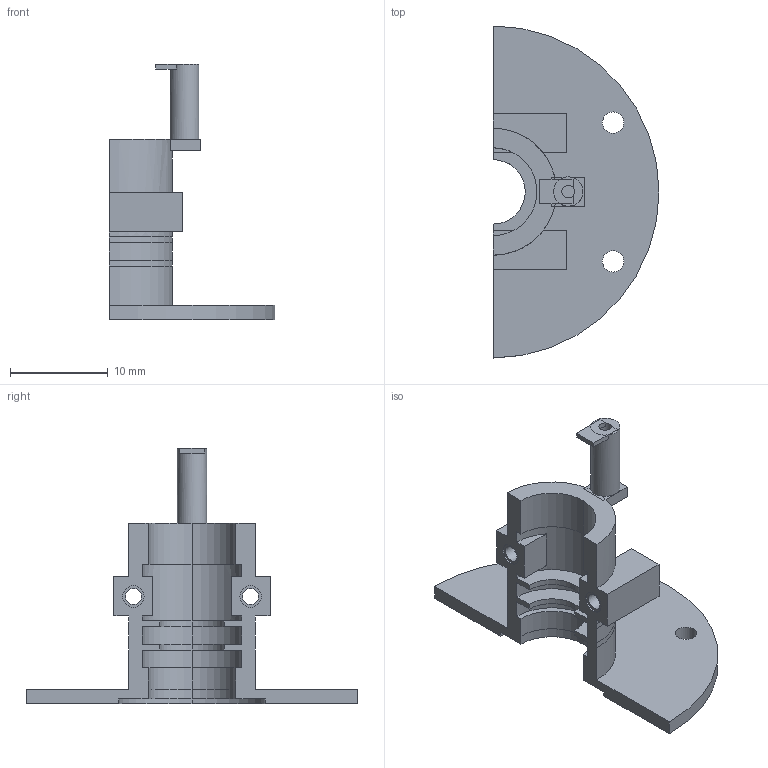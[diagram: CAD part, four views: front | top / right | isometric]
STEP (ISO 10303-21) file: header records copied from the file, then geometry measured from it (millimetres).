
FILE_DESCRIPTION(('Open CASCADE Model'),'2;1');
FILE_NAME('Open CASCADE Shape Model','2026-09-24T02:53:19',('Author'),( 'Open CASCADE'),'Open CASCADE STEP processor 7.8','Open CASCADE 7.8' ,'Unknown');
FILE_SCHEMA(('AUTOMOTIVE_DESIGN { 1 0 10303 214 1 1 1 1 }'));
Length unit declared in the file: millimetre
Products named in the file (1): Open CASCADE STEP translator 7.8 3
Bounding box: 17 x 34 x 26.18 mm (x, y, z)
Volume: 1324.7 mm3; surface area: 2150 mm2
Topology: 1 solids, 1 shells, 86 faces, 234 edges, 152 vertices
Faces by surface type: plane 46, cylinder 40
Full cylindrical faces by diameter (mm): 1.3 x2, 1.66 x2, 2.2 x4, 3 x1
Entity records: 5649 total; most frequent: CARTESIAN_POINT 1091, DIRECTION 815, ORIENTED_EDGE 468, PCURVE 468, DEFINITIONAL_REPRESENTATION 468, LINE 383, VECTOR 383, EDGE_CURVE 234
